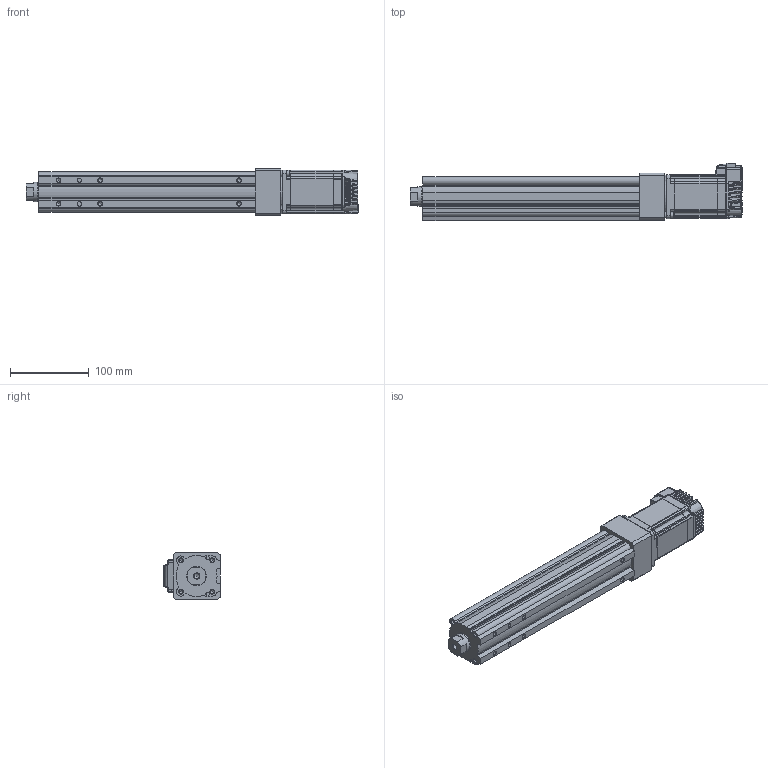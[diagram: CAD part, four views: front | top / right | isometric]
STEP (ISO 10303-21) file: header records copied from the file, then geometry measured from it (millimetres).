
FILE_DESCRIPTION (( 'STEP AP214' ), '1' );
FILE_NAME ('LEY3(+)-32DNM1□-150-23L.STEP', '2023-04-06T07:51:20', ( '' ), ( '' ), 'SwSTEP 2.0', 'SolidWorks 2019', '' );
FILE_SCHEMA (( 'AUTOMOTIVE_DESIGN' ));
Length unit declared in the file: millimetre
Products named in the file (5): CM3(+)-23L50A_2-M4_01; LEY3(+)-32NM1?_ROD_150; LEY3(+)-32DNM1□-150-23L; LEY3(+)-32NM1?_BODY_150; LEY3(+)-32DNM1_MOTOR Flange
Assembly tree (4 placements, depth 2):
  LEY3(+)-32DNM1□-150-23L
    LEY3(+)-32NM1?_BODY_150
    LEY3(+)-32NM1?_ROD_150
    LEY3(+)-32DNM1_MOTOR Flange
    CM3(+)-23L50A_2-M4_01
Bounding box: 422.8 x 73.75 x 60 mm (x, y, z)
Volume: 1035081.8 mm3; surface area: 169169.8 mm2
Topology: 4 solids, 13 shells, 1439 faces, 3713 edges, 2295 vertices
Faces by surface type: plane 668, cylinder 432, bspline 133, cone 101, torus 58, sphere 47
Full cylindrical faces by diameter (mm): 2.5 x4, 3 x2, 3.2 x4, 4.2 x1, 4.5 x7, 4.9 x10, 5 x1, 6.2 x4, 6.35 x1, 6.8 x1, 7 x2, 8 x2, 24.8 x1, 25 x2, 32 x2, 38.1 x1
Entity records: 49056 total; most frequent: CARTESIAN_POINT 12638, ORIENTED_EDGE 7102, DIRECTION 6555, EDGE_CURVE 3551, VERTEX_POINT 2267, AXIS2_PLACEMENT_3D 2230, LINE 2095, VECTOR 2095
